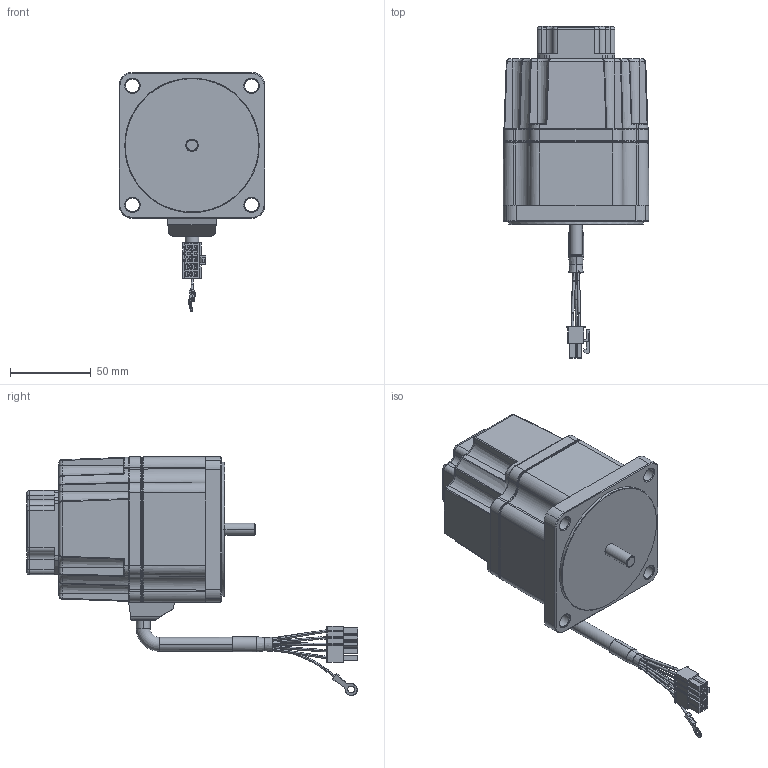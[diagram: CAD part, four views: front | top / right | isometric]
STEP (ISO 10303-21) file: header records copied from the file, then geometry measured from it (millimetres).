
FILE_DESCRIPTION (( 'STEP AP214' ), '1' );
FILE_NAME ('B Series 90w_brake_encoder_H.STEP', '2023-08-16T06:46:25', ( '' ), ( '' ), 'SwSTEP 2.0', 'SolidWorks 2022', '' );
FILE_SCHEMA (( 'AUTOMOTIVE_DESIGN' ));
Length unit declared in the file: millimetre
Products named in the file (7): K9BH90N﹤.stp; LEAD BUSH.stp; B Series 90w_brake_encoder_H; K9 BRAKE COVER.stp; B Series 90w_brake_H.stp; ENCODER COVER ASS''Y; ENCODER COVER
Assembly tree (6 placements, depth 3):
  B Series 90w_brake_encoder_H
    B Series 90w_brake_H.stp
      K9BH90N﹤.stp
      K9 BRAKE COVER.stp
    ENCODER COVER ASS''Y
      LEAD BUSH.stp
      ENCODER COVER
Bounding box: 90 x 204.9 x 147.63 mm (x, y, z)
Volume: 494506.9 mm3; surface area: 111422.4 mm2
Topology: 5 solids, 5 shells, 1797 faces, 4724 edges, 2919 vertices
Faces by surface type: plane 821, cylinder 485, bspline 255, torus 136, cone 84, sphere 16
Entity records: 66417 total; most frequent: CARTESIAN_POINT 26982, ORIENTED_EDGE 9364, DIRECTION 6080, EDGE_CURVE 4682, VERTEX_POINT 2919, AXIS2_PLACEMENT_3D 2427, B_SPLINE_CURVE_WITH_KNOTS 2384, EDGE_LOOP 1911
